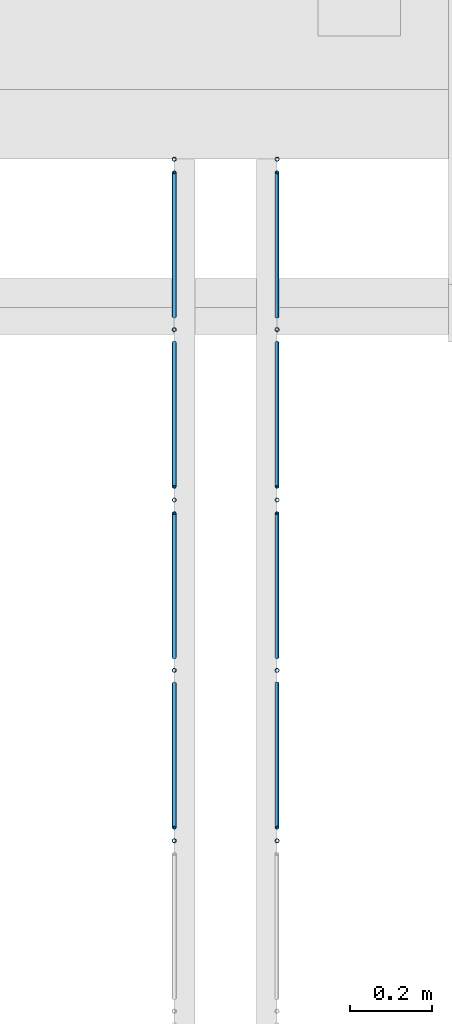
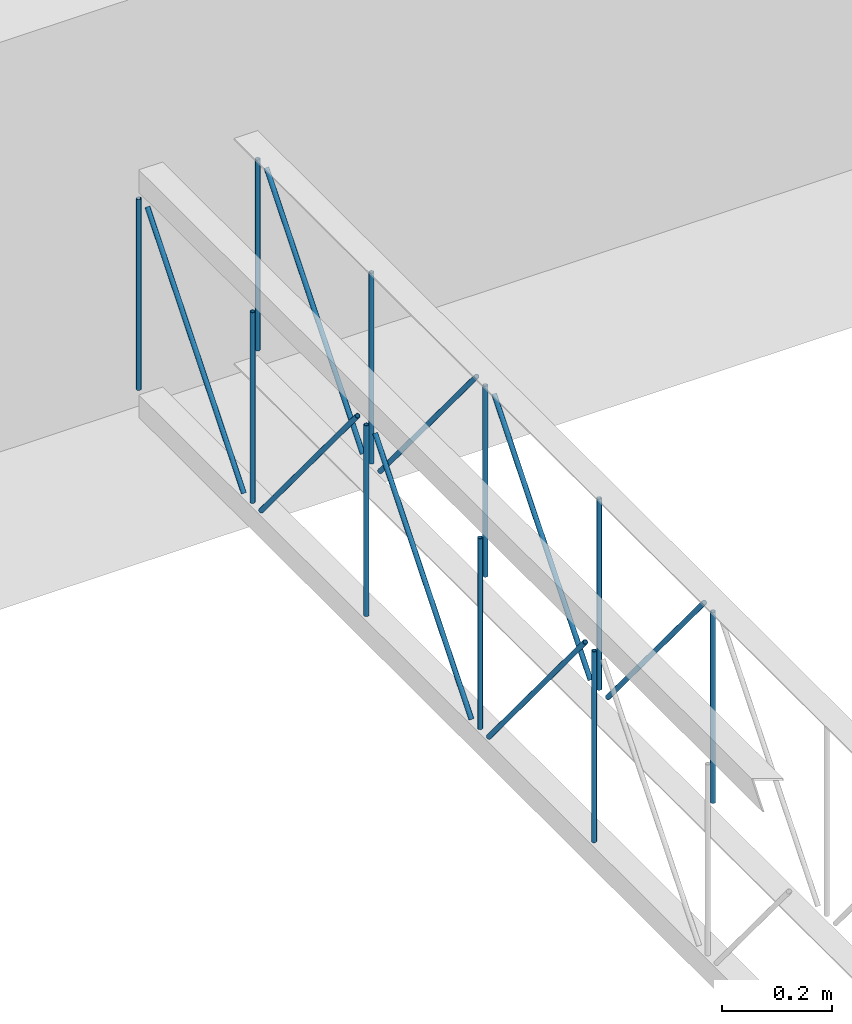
# One storey, part 59 of 153: 18 members, 2 elements without a shape of their own.
"""IFC4 building model written with IfcOpenShell, lengths in metres."""

from ifc_helpers import new_model, entity, si_unit, converted_unit, derived_unit, direction, frame, origin, place, context, subcontext, project, spatial, arc, indexed_curve, outline, extrude, source, transform, mapped, material, type_object, type_shapes, element, aggregate, save


model = new_model("IFC4")

# Units and contexts
model_context = context("Model", 3, precision=1e-05, world=origin(), true_north=direction((6.123031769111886e-17, 1.0)))
body_context = subcontext(model_context, "Body", "Model", "MODEL_VIEW")
ifc_project = project(units=[si_unit("LENGTHUNIT", "METRE"), si_unit("AREAUNIT", "SQUARE_METRE"), si_unit("VOLUMEUNIT", "CUBIC_METRE"), converted_unit("PLANEANGLEUNIT", "DEGREE", entity("IfcRatioMeasure", 0.017453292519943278), si_unit("PLANEANGLEUNIT", "RADIAN"), dimensions=[0, 0, 0, 0, 0, 0, 0]), si_unit("MASSUNIT", "GRAM", prefix="KILO"), derived_unit("MASSDENSITYUNIT", [(si_unit("MASSUNIT", "GRAM", prefix="KILO"), 1), (si_unit("LENGTHUNIT", "METRE"), -3)]), derived_unit("MOMENTOFINERTIAUNIT", [(si_unit("LENGTHUNIT", "METRE"), 4)]), si_unit("TIMEUNIT", "SECOND"), si_unit("FREQUENCYUNIT", "HERTZ"), si_unit("THERMODYNAMICTEMPERATUREUNIT", "DEGREE_CELSIUS"), derived_unit("THERMALTRANSMITTANCEUNIT", [(si_unit("MASSUNIT", "GRAM", prefix="KILO"), 1), (si_unit("THERMODYNAMICTEMPERATUREUNIT", "KELVIN"), -1), (si_unit("TIMEUNIT", "SECOND"), -3)]), derived_unit("VOLUMETRICFLOWRATEUNIT", [(si_unit("LENGTHUNIT", "METRE"), 3), (si_unit("TIMEUNIT", "SECOND"), -1)]), derived_unit("MASSFLOWRATEUNIT", [(si_unit("MASSUNIT", "GRAM", prefix="KILO"), 1), (si_unit("TIMEUNIT", "SECOND"), -1)]), derived_unit("ROTATIONALFREQUENCYUNIT", [(si_unit("TIMEUNIT", "SECOND"), -1)]), si_unit("ELECTRICCURRENTUNIT", "AMPERE"), si_unit("ELECTRICVOLTAGEUNIT", "VOLT"), si_unit("POWERUNIT", "WATT"), si_unit("FORCEUNIT", "NEWTON", prefix="KILO"), si_unit("ILLUMINANCEUNIT", "LUX"), si_unit("LUMINOUSFLUXUNIT", "LUMEN"), si_unit("LUMINOUSINTENSITYUNIT", "CANDELA"), derived_unit("USERDEFINED", [(si_unit("MASSUNIT", "GRAM", prefix="KILO"), -1), (si_unit("LENGTHUNIT", "METRE"), -2), (si_unit("TIMEUNIT", "SECOND"), 3), (si_unit("LUMINOUSFLUXUNIT", "LUMEN"), 1)]), derived_unit("SOUNDPOWERUNIT", [(si_unit("MASSUNIT", "GRAM", prefix="KILO"), 1), (si_unit("LENGTHUNIT", "METRE"), 2), (si_unit("TIMEUNIT", "SECOND"), -3)]), derived_unit("SOUNDPRESSUREUNIT", [(si_unit("MASSUNIT", "GRAM", prefix="KILO"), 1), (si_unit("LENGTHUNIT", "METRE"), -1), (si_unit("TIMEUNIT", "SECOND"), -2)]), derived_unit("LINEARVELOCITYUNIT", [(si_unit("LENGTHUNIT", "METRE"), 1), (si_unit("TIMEUNIT", "SECOND"), -1)]), si_unit("PRESSUREUNIT", "PASCAL"), derived_unit("USERDEFINED", [(si_unit("LENGTHUNIT", "METRE"), -2), (si_unit("MASSUNIT", "GRAM", prefix="KILO"), 1), (si_unit("TIMEUNIT", "SECOND"), -2)]), derived_unit("LINEARFORCEUNIT", [(si_unit("MASSUNIT", "GRAM", prefix="KILO"), 1), (si_unit("LENGTHUNIT", "METRE"), 1), (si_unit("TIMEUNIT", "SECOND"), -2), (si_unit("LENGTHUNIT", "METRE"), -1)]), derived_unit("PLANARFORCEUNIT", [(si_unit("MASSUNIT", "GRAM", prefix="KILO"), 1), (si_unit("LENGTHUNIT", "METRE"), 1), (si_unit("TIMEUNIT", "SECOND"), -2), (si_unit("LENGTHUNIT", "METRE"), -2)])], contexts=[model_context])

# Site, building, storey
site_placement = place(None, origin())
site = spatial("IfcSite", under=ifc_project, at=site_placement, Name="Superficie", CompositionType="ELEMENT")
building_placement = place(site_placement, origin())
building = spatial("IfcBuilding", under=site, at=building_placement, CompositionType="ELEMENT")
storey_placement = place(building_placement, frame((0.0, 0.0, 3.5999999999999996)))
storey = spatial("IfcBuildingStorey", under=building, at=storey_placement, Name="Nivel 1", CompositionType="ELEMENT", Elevation=3.5999999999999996)

# Assembly, members
assembly_1_placement = place(storey_placement, origin())
assembly_1 = element("IfcElementAssembly", 1, at=assembly_1_placement, inside=storey, Name="Viga de celosia 13:Viga de celosia 13", ObjectType="Viga de celosia 13:Viga de celosia 13", AssemblyPlace="NOTDEFINED", PredefinedType="TRUSS")
ifc_material = material(Name="Metal - Calibre delgado", Category="Metal")
member_type_1 = type_object("IfcMemberType", Name="HSS-Tubo estructural redondo:HSS 0.01", PredefinedType="BRACE", material=ifc_material)
shared_shape_1 = source(origin(), body_context, "Body", "SweptSolid", [
    extrude(outline(indexed_curve([(-0.005000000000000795, 7.502054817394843e-18), (-9.800269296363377e-18, -0.005000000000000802), (0.005000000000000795, -7.502054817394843e-18), (8.07772287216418e-18, 0.005000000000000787)], segments=[arc(1, 2, 3), arc(3, 4, 1)], self_intersect=False), holes=[indexed_curve([(0.003999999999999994, 7.222511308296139e-17), (6.910645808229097e-17, -0.004000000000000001), (-0.003999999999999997, -1.8650054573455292e-17), (-2.9156497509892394e-17, 0.003999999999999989)], segments=[arc(1, 2, 3), arc(3, 4, 1)], self_intersect=False)]), frame((-0.21200000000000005, 0.0, 0.0), z_axis=(1.0, 0.0, 0.0), x_axis=(0.0, 1.0, 0.0)), (0.0, 0.0, 1.0), 0.4240000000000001),
])
type_shapes(member_type_1, [shared_shape_1])
member_1_placement = place(assembly_1_placement, frame((-8.86320098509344, -4.990991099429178, 0.25), z_axis=(0.0, 1.0, 0.0), x_axis=(0.0, 0.0, 1.0)))
member_1 = element("IfcMember", 2, at=member_1_placement, type_object=member_type_1, material=ifc_material, Name="HSS-Tubo estructural redondo:HSS 0.01", ObjectType="HSS-Tubo estructural redondo:HSS 0.01", PredefinedType="BRACE", context=body_context, shape_type="MappedRepresentation", body=[
    mapped(shared_shape_1, transform((0.0, 0.0, 0.0), scale=1.0)),
])
member_2_placement = place(assembly_1_placement, frame((-8.86320098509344, -4.57664501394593, 0.25), z_axis=(0.0, 1.0, 0.0), x_axis=(0.0, 0.0, 1.0)))
member_2 = element("IfcMember", 3, at=member_2_placement, type_object=member_type_1, material=ifc_material, Name="HSS-Tubo estructural redondo:HSS 0.01", ObjectType="HSS-Tubo estructural redondo:HSS 0.01", PredefinedType="BRACE", context=body_context, shape_type="MappedRepresentation", body=[
    mapped(shared_shape_1, transform((0.0, 0.0, 0.0), scale=1.0)),
])
member_3_placement = place(assembly_1_placement, frame((-8.863200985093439, -4.162298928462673, 0.25), z_axis=(0.0, 1.0, 0.0), x_axis=(0.0, 0.0, 1.0)))
member_3 = element("IfcMember", 4, at=member_3_placement, type_object=member_type_1, material=ifc_material, Name="HSS-Tubo estructural redondo:HSS 0.01", ObjectType="HSS-Tubo estructural redondo:HSS 0.01", PredefinedType="BRACE", context=body_context, shape_type="MappedRepresentation", body=[
    mapped(shared_shape_1, transform((0.0, 0.0, 0.0), scale=1.0)),
])
member_4_placement = place(assembly_1_placement, frame((-8.863200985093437, -3.747952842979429, 0.25), z_axis=(0.0, 1.0, 0.0), x_axis=(0.0, 0.0, 1.0)))
member_4 = element("IfcMember", 5, at=member_4_placement, type_object=member_type_1, material=ifc_material, Name="HSS-Tubo estructural redondo:HSS 0.01", ObjectType="HSS-Tubo estructural redondo:HSS 0.01", PredefinedType="BRACE", context=body_context, shape_type="MappedRepresentation", body=[
    mapped(shared_shape_1, transform((0.0, 0.0, 0.0), scale=1.0)),
])
member_5_placement = place(assembly_1_placement, frame((-8.863200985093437, -3.3336067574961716, 0.25), z_axis=(0.0, 1.0, 0.0), x_axis=(0.0, 0.0, 1.0)))
member_5 = element("IfcMember", 6, at=member_5_placement, type_object=member_type_1, material=ifc_material, Name="HSS-Tubo estructural redondo:HSS 0.01", ObjectType="HSS-Tubo estructural redondo:HSS 0.01", PredefinedType="BRACE", context=body_context, shape_type="MappedRepresentation", body=[
    mapped(shared_shape_1, transform((0.0, 0.0, 0.0), scale=1.0)),
])
member_type_2 = type_object("IfcMemberType", Name="HSS-Tubo estructural redondo:HSS 0.01", PredefinedType="BRACE", material=ifc_material)
shared_shape_2 = source(origin(), body_context, "Body", "SweptSolid", [
    extrude(outline(indexed_curve([(-0.005000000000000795, 7.502054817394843e-18), (-9.800269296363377e-18, -0.005000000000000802), (0.005000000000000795, -7.502054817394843e-18), (8.07772287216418e-18, 0.005000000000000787)], segments=[arc(1, 2, 3), arc(3, 4, 1)], self_intersect=False), holes=[indexed_curve([(0.003999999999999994, 7.222511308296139e-17), (6.910645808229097e-17, -0.004000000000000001), (-0.003999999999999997, -1.8650054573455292e-17), (-2.9156497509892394e-17, 0.003999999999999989)], segments=[arc(1, 2, 3), arc(3, 4, 1)], self_intersect=False)]), frame((-0.275, 0.0, 0.0), z_axis=(1.0, 0.0, 0.0), x_axis=(0.0, 1.0, 0.0)), (0.0, 0.0, 1.0), 0.55),
])
type_shapes(member_type_2, [shared_shape_2])
member_6_placement = place(assembly_1_placement, frame((-8.86320098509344, -4.783818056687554, 0.25000000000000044), z_axis=(0.0, -0.7699758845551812, -0.6380729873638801), x_axis=(0.0, 0.6380729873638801, -0.7699758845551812)))
member_6 = element("IfcMember", 7, at=member_6_placement, type_object=member_type_2, material=ifc_material, Name="HSS-Tubo estructural redondo:HSS 0.01", ObjectType="HSS-Tubo estructural redondo:HSS 0.01", PredefinedType="BRACE", context=body_context, shape_type="MappedRepresentation", body=[
    mapped(shared_shape_2, transform((0.0, 0.0, 0.0), scale=1.0)),
])
member_7_placement = place(assembly_1_placement, frame((-8.86320098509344, -4.369471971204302, 0.24999999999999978), z_axis=(0.0, 0.7699758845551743, -0.6380729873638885), x_axis=(0.0, 0.6380729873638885, 0.7699758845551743)))
member_7 = element("IfcMember", 8, at=member_7_placement, type_object=member_type_2, material=ifc_material, Name="HSS-Tubo estructural redondo:HSS 0.01", ObjectType="HSS-Tubo estructural redondo:HSS 0.01", PredefinedType="BRACE", context=body_context, shape_type="MappedRepresentation", body=[
    mapped(shared_shape_2, transform((0.0, 0.0, 0.0), scale=1.0)),
])
member_8_placement = place(assembly_1_placement, frame((-8.863200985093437, -3.955125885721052, 0.25), z_axis=(0.0, -0.7699758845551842, -0.6380729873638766), x_axis=(0.0, 0.6380729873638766, -0.7699758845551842)))
member_8 = element("IfcMember", 9, at=member_8_placement, type_object=member_type_2, material=ifc_material, Name="HSS-Tubo estructural redondo:HSS 0.01", ObjectType="HSS-Tubo estructural redondo:HSS 0.01", PredefinedType="BRACE", context=body_context, shape_type="MappedRepresentation", body=[
    mapped(shared_shape_2, transform((0.0, 0.0, 0.0), scale=1.0)),
])
member_9_placement = place(assembly_1_placement, frame((-8.863200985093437, -3.5407798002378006, 0.25), z_axis=(0.0, 0.7699758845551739, -0.638072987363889), x_axis=(0.0, 0.638072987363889, 0.7699758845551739)))
member_9 = element("IfcMember", 10, at=member_9_placement, type_object=member_type_2, material=ifc_material, Name="HSS-Tubo estructural redondo:HSS 0.01", ObjectType="HSS-Tubo estructural redondo:HSS 0.01", PredefinedType="BRACE", context=body_context, shape_type="MappedRepresentation", body=[
    mapped(shared_shape_2, transform((0.0, 0.0, 0.0), scale=1.0)),
])
aggregate(assembly_1, [member_1, member_2, member_3, member_4, member_5, member_6, member_7, member_8, member_9])

assembly_2_placement = place(storey_placement, origin())
assembly_2 = element("IfcElementAssembly", 11, at=assembly_2_placement, inside=storey, Name="Viga de celosia 13:Viga de celosia 13", ObjectType="Viga de celosia 13:Viga de celosia 13", AssemblyPlace="NOTDEFINED", PredefinedType="TRUSS")
member_type_3 = type_object("IfcMemberType", Name="HSS-Tubo estructural redondo:HSS 0.01", PredefinedType="BRACE", material=ifc_material)
shared_shape_3 = source(origin(), body_context, "Body", "SweptSolid", [
    extrude(outline(indexed_curve([(-0.005000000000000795, 2.0824731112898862e-17), (-2.3122945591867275e-17, -0.005000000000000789), (0.005000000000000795, -2.08247311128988e-17), (2.14003991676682e-17, 0.005000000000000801)], segments=[arc(1, 2, 3), arc(3, 4, 1)], self_intersect=False), holes=[indexed_curve([(0.003999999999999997, -1.3094283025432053e-17), (-1.531427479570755e-18, -0.003999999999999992), (-0.004, 4.0098531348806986e-17), (4.1481388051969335e-17, 0.0039999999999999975)], segments=[arc(1, 2, 3), arc(3, 4, 1)], self_intersect=False)]), frame((-0.21200000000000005, 0.0, 0.0), z_axis=(1.0, 0.0, 0.0), x_axis=(0.0, -1.0, 0.0)), (0.0, 0.0, 1.0), 0.4240000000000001),
])
type_shapes(member_type_3, [shared_shape_3])
member_10_placement = place(assembly_2_placement, frame((-8.613200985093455, -4.990991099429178, 0.25), z_axis=(0.0, 1.0, 0.0), x_axis=(0.0, 0.0, 1.0)))
member_10 = element("IfcMember", 12, at=member_10_placement, type_object=member_type_3, material=ifc_material, Name="HSS-Tubo estructural redondo:HSS 0.01", ObjectType="HSS-Tubo estructural redondo:HSS 0.01", PredefinedType="BRACE", context=body_context, shape_type="MappedRepresentation", body=[
    mapped(shared_shape_3, transform((0.0, 0.0, 0.0), scale=1.0)),
])
member_11_placement = place(assembly_2_placement, frame((-8.613200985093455, -4.57664501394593, 0.25), z_axis=(0.0, 1.0, 0.0), x_axis=(0.0, 0.0, 1.0)))
member_11 = element("IfcMember", 13, at=member_11_placement, type_object=member_type_3, material=ifc_material, Name="HSS-Tubo estructural redondo:HSS 0.01", ObjectType="HSS-Tubo estructural redondo:HSS 0.01", PredefinedType="BRACE", context=body_context, shape_type="MappedRepresentation", body=[
    mapped(shared_shape_3, transform((0.0, 0.0, 0.0), scale=1.0)),
])
member_12_placement = place(assembly_2_placement, frame((-8.613200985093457, -4.162298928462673, 0.25), z_axis=(0.0, 1.0, 0.0), x_axis=(0.0, 0.0, 1.0)))
member_12 = element("IfcMember", 14, at=member_12_placement, type_object=member_type_3, material=ifc_material, Name="HSS-Tubo estructural redondo:HSS 0.01", ObjectType="HSS-Tubo estructural redondo:HSS 0.01", PredefinedType="BRACE", context=body_context, shape_type="MappedRepresentation", body=[
    mapped(shared_shape_3, transform((0.0, 0.0, 0.0), scale=1.0)),
])
member_13_placement = place(assembly_2_placement, frame((-8.613200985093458, -3.747952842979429, 0.25), z_axis=(0.0, 1.0, 0.0), x_axis=(0.0, 0.0, 1.0)))
member_13 = element("IfcMember", 15, at=member_13_placement, type_object=member_type_3, material=ifc_material, Name="HSS-Tubo estructural redondo:HSS 0.01", ObjectType="HSS-Tubo estructural redondo:HSS 0.01", PredefinedType="BRACE", context=body_context, shape_type="MappedRepresentation", body=[
    mapped(shared_shape_3, transform((0.0, 0.0, 0.0), scale=1.0)),
])
member_14_placement = place(assembly_2_placement, frame((-8.613200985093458, -3.3336067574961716, 0.25), z_axis=(0.0, 1.0, 0.0), x_axis=(0.0, 0.0, 1.0)))
member_14 = element("IfcMember", 16, at=member_14_placement, type_object=member_type_3, material=ifc_material, Name="HSS-Tubo estructural redondo:HSS 0.01", ObjectType="HSS-Tubo estructural redondo:HSS 0.01", PredefinedType="BRACE", context=body_context, shape_type="MappedRepresentation", body=[
    mapped(shared_shape_3, transform((0.0, 0.0, 0.0), scale=1.0)),
])
member_type_4 = type_object("IfcMemberType", Name="HSS-Tubo estructural redondo:HSS 0.01", PredefinedType="BRACE", material=ifc_material)
shared_shape_4 = source(origin(), body_context, "Body", "SweptSolid", [
    extrude(outline(indexed_curve([(-0.005000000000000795, 2.0824731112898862e-17), (-2.3122945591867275e-17, -0.005000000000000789), (0.005000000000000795, -2.08247311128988e-17), (2.14003991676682e-17, 0.005000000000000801)], segments=[arc(1, 2, 3), arc(3, 4, 1)], self_intersect=False), holes=[indexed_curve([(0.003999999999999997, -1.3094283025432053e-17), (-1.531427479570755e-18, -0.003999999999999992), (-0.004, 4.0098531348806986e-17), (4.1481388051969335e-17, 0.0039999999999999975)], segments=[arc(1, 2, 3), arc(3, 4, 1)], self_intersect=False)]), frame((-0.275, 0.0, 0.0), z_axis=(1.0, 0.0, 0.0), x_axis=(0.0, -1.0, 0.0)), (0.0, 0.0, 1.0), 0.55),
])
type_shapes(member_type_4, [shared_shape_4])
member_15_placement = place(assembly_2_placement, frame((-8.613200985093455, -4.783818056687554, 0.25000000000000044), z_axis=(0.0, -0.7699758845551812, -0.6380729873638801), x_axis=(0.0, 0.6380729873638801, -0.7699758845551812)))
member_15 = element("IfcMember", 17, at=member_15_placement, type_object=member_type_4, material=ifc_material, Name="HSS-Tubo estructural redondo:HSS 0.01", ObjectType="HSS-Tubo estructural redondo:HSS 0.01", PredefinedType="BRACE", context=body_context, shape_type="MappedRepresentation", body=[
    mapped(shared_shape_4, transform((0.0, 0.0, 0.0), scale=1.0)),
])
member_16_placement = place(assembly_2_placement, frame((-8.613200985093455, -4.369471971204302, 0.24999999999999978), z_axis=(0.0, 0.7699758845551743, -0.6380729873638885), x_axis=(0.0, 0.6380729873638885, 0.7699758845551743)))
member_16 = element("IfcMember", 18, at=member_16_placement, type_object=member_type_4, material=ifc_material, Name="HSS-Tubo estructural redondo:HSS 0.01", ObjectType="HSS-Tubo estructural redondo:HSS 0.01", PredefinedType="BRACE", context=body_context, shape_type="MappedRepresentation", body=[
    mapped(shared_shape_4, transform((0.0, 0.0, 0.0), scale=1.0)),
])
member_17_placement = place(assembly_2_placement, frame((-8.613200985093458, -3.955125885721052, 0.25), z_axis=(0.0, -0.7699758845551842, -0.6380729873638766), x_axis=(0.0, 0.6380729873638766, -0.7699758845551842)))
member_17 = element("IfcMember", 19, at=member_17_placement, type_object=member_type_4, material=ifc_material, Name="HSS-Tubo estructural redondo:HSS 0.01", ObjectType="HSS-Tubo estructural redondo:HSS 0.01", PredefinedType="BRACE", context=body_context, shape_type="MappedRepresentation", body=[
    mapped(shared_shape_4, transform((0.0, 0.0, 0.0), scale=1.0)),
])
member_18_placement = place(assembly_2_placement, frame((-8.613200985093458, -3.5407798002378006, 0.25), z_axis=(0.0, 0.7699758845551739, -0.638072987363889), x_axis=(0.0, 0.638072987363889, 0.7699758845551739)))
member_18 = element("IfcMember", 20, at=member_18_placement, type_object=member_type_4, material=ifc_material, Name="HSS-Tubo estructural redondo:HSS 0.01", ObjectType="HSS-Tubo estructural redondo:HSS 0.01", PredefinedType="BRACE", context=body_context, shape_type="MappedRepresentation", body=[
    mapped(shared_shape_4, transform((0.0, 0.0, 0.0), scale=1.0)),
])
aggregate(assembly_2, [member_10, member_11, member_12, member_13, member_14, member_15, member_16, member_17, member_18])

save(model, "model.ifc")
